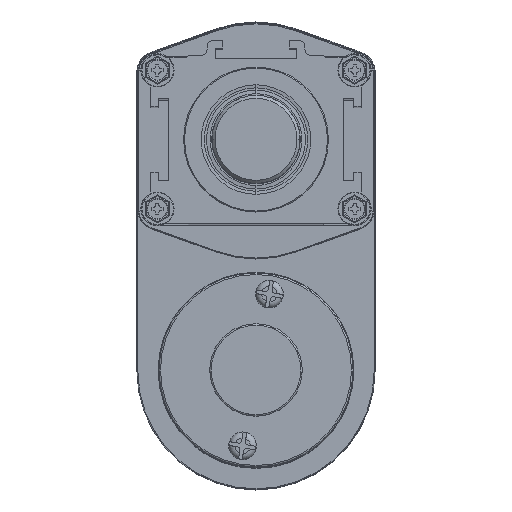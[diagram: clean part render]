
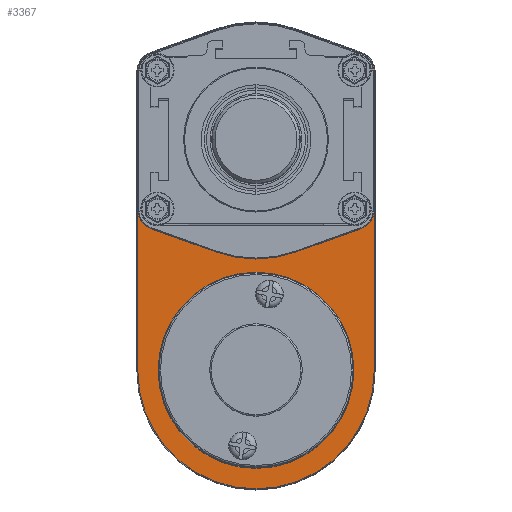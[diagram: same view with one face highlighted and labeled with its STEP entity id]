
A CAD part, top view. The second image highlights one B-rep face of the part: STEP entity #3367.
In plain terms, the highlighted planar face has unit normal (0, 0, 1).
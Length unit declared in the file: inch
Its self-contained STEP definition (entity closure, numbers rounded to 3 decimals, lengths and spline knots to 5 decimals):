
#3367=ADVANCED_FACE('NONE',(#8942,#8943,#8944),#8945,.T.);
#8942=FACE_OUTER_BOUND('',#17729,.T.);
#8943=FACE_BOUND('',#17730,.T.);
#8944=FACE_BOUND('',#17731,.T.);
#8945=PLANE('',#17732);
#17729=EDGE_LOOP('',(#33168,#33169,#33170,#33171,#33172,#33173,#33174,#33175));
#17730=EDGE_LOOP('',(#33176,#33177));
#17731=EDGE_LOOP('',(#33178,#33179,#33180,#33181,#33182,#33183,#33184,#33185,#33186,#33187,#33188,#33189,#33190));
#17732=AXIS2_PLACEMENT_3D('',#33191,#33192,#33193);
#33168=ORIENTED_EDGE('',*,*,#54996,.T.);
#33169=ORIENTED_EDGE('',*,*,#54997,.T.);
#33170=ORIENTED_EDGE('',*,*,#54998,.T.);
#33171=ORIENTED_EDGE('',*,*,#54999,.T.);
#33172=ORIENTED_EDGE('',*,*,#55000,.T.);
#33173=ORIENTED_EDGE('',*,*,#53604,.T.);
#33174=ORIENTED_EDGE('',*,*,#55001,.T.);
#33175=ORIENTED_EDGE('',*,*,#55002,.T.);
#33176=ORIENTED_EDGE('',*,*,#55003,.F.);
#33177=ORIENTED_EDGE('',*,*,#55004,.F.);
#33178=ORIENTED_EDGE('',*,*,#55005,.T.);
#33179=ORIENTED_EDGE('',*,*,#55006,.F.);
#33180=ORIENTED_EDGE('',*,*,#55007,.F.);
#33181=ORIENTED_EDGE('',*,*,#55008,.F.);
#33182=ORIENTED_EDGE('',*,*,#55009,.F.);
#33183=ORIENTED_EDGE('',*,*,#55010,.F.);
#33184=ORIENTED_EDGE('',*,*,#55011,.T.);
#33185=ORIENTED_EDGE('',*,*,#53167,.T.);
#33186=ORIENTED_EDGE('',*,*,#55012,.T.);
#33187=ORIENTED_EDGE('',*,*,#55013,.T.);
#33188=ORIENTED_EDGE('',*,*,#55014,.T.);
#33189=ORIENTED_EDGE('',*,*,#55015,.T.);
#33190=ORIENTED_EDGE('',*,*,#55016,.T.);
#33191=CARTESIAN_POINT('',(-20.20692,10.28208,-13.12935));
#33192=DIRECTION('',(0.0,0.0,1.0));
#33193=DIRECTION('',(1.0,0.0,0.0));
#53167=EDGE_CURVE('NONE',#62508,#62509,#62510,.T.);
#53604=EDGE_CURVE('NONE',#63292,#63289,#63293,.T.);
#54996=EDGE_CURVE('NONE',#65702,#65703,#65704,.T.);
#54997=EDGE_CURVE('NONE',#65703,#65705,#65706,.T.);
#54998=EDGE_CURVE('NONE',#65705,#65707,#65708,.T.);
#54999=EDGE_CURVE('NONE',#65707,#65709,#65710,.T.);
#55000=EDGE_CURVE('NONE',#65709,#63292,#65711,.T.);
#55001=EDGE_CURVE('NONE',#63289,#65712,#65713,.T.);
#55002=EDGE_CURVE('NONE',#65712,#65702,#65714,.T.);
#55003=EDGE_CURVE('NONE',#65715,#65716,#65717,.T.);
#55004=EDGE_CURVE('NONE',#65716,#65715,#65718,.T.);
#55005=EDGE_CURVE('NONE',#65719,#65720,#65721,.T.);
#55006=EDGE_CURVE('NONE',#65722,#65720,#65723,.T.);
#55007=EDGE_CURVE('NONE',#65724,#65722,#65725,.T.);
#55008=EDGE_CURVE('NONE',#65726,#65724,#65727,.T.);
#55009=EDGE_CURVE('NONE',#65728,#65726,#65729,.T.);
#55010=EDGE_CURVE('NONE',#65730,#65728,#65731,.T.);
#55011=EDGE_CURVE('NONE',#65730,#62508,#65732,.T.);
#55012=EDGE_CURVE('NONE',#62509,#65733,#65734,.T.);
#55013=EDGE_CURVE('NONE',#65733,#65735,#65736,.T.);
#55014=EDGE_CURVE('NONE',#65735,#65737,#65738,.T.);
#55015=EDGE_CURVE('NONE',#65737,#65739,#65740,.T.);
#55016=EDGE_CURVE('NONE',#65739,#65719,#65741,.T.);
#62508=VERTEX_POINT('NONE',#76111);
#62509=VERTEX_POINT('NONE',#76112);
#62510=CIRCLE('',#76113,0.24785);
#63289=VERTEX_POINT('NONE',#77629);
#63292=VERTEX_POINT('NONE',#77633);
#63293=LINE('',#77634,#77635);
#65702=VERTEX_POINT('NONE',#82963);
#65703=VERTEX_POINT('NONE',#82964);
#65704=CIRCLE('',#82965,0.25102);
#65705=VERTEX_POINT('NONE',#82966);
#65706=LINE('',#82967,#82968);
#65707=VERTEX_POINT('NONE',#82969);
#65708=CIRCLE('',#82970,1.51086);
#65709=VERTEX_POINT('NONE',#82971);
#65710=LINE('',#82972,#82973);
#65711=CIRCLE('',#82974,0.25102);
#65712=VERTEX_POINT('NONE',#82975);
#65713=CIRCLE('',#82976,1.51086);
#65714=LINE('',#82977,#82978);
#65715=VERTEX_POINT('NONE',#82979);
#65716=VERTEX_POINT('NONE',#82980);
#65717=CIRCLE('',#82981,1.25);
#65718=CIRCLE('',#82982,1.25);
#65719=VERTEX_POINT('NONE',#82983);
#65720=VERTEX_POINT('NONE',#82984);
#65721=LINE('',#82985,#82986);
#65722=VERTEX_POINT('NONE',#82987);
#65723=CIRCLE('',#82988,0.24785);
#65724=VERTEX_POINT('NONE',#82989);
#65725=LINE('',#82990,#82991);
#65726=VERTEX_POINT('NONE',#82992);
#65727=CIRCLE('',#82993,1.50769);
#65728=VERTEX_POINT('NONE',#82994);
#65729=LINE('',#82995,#82996);
#65730=VERTEX_POINT('NONE',#82997);
#65731=CIRCLE('',#82998,0.24785);
#65732=LINE('',#82999,#83000);
#65733=VERTEX_POINT('NONE',#83001);
#65734=LINE('',#83002,#83003);
#65735=VERTEX_POINT('NONE',#83004);
#65736=CIRCLE('',#83005,1.50769);
#65737=VERTEX_POINT('NONE',#83006);
#65738=CIRCLE('',#83007,1.50769);
#65739=VERTEX_POINT('NONE',#83008);
#65740=LINE('',#83009,#83010);
#65741=CIRCLE('',#83011,0.24785);
#76111=CARTESIAN_POINT('',(-21.98994,12.63444,-13.12935));
#76112=CARTESIAN_POINT('',(-21.82595,12.86767,-13.12935));
#76113=AXIS2_PLACEMENT_3D('',#105246,#105247,#105248);
#77629=CARTESIAN_POINT('',(-21.99311,8.81554,-13.12935));
#77633=CARTESIAN_POINT('',(-21.99311,12.63444,-13.12935));
#77634=CARTESIAN_POINT('',(-21.99311,8.81554,-13.12935));
#77635=VECTOR('',#105752,39.37008);
#82963=CARTESIAN_POINT('',(-18.97138,12.63444,-13.12935));
#82964=CARTESIAN_POINT('',(-19.13747,12.87066,-13.12935));
#82965=AXIS2_PLACEMENT_3D('',#107231,#107232,#107233);
#82966=CARTESIAN_POINT('',(-19.97106,13.17037,-13.12935));
#82967=CARTESIAN_POINT('',(-19.97106,13.17037,-13.12935));
#82968=VECTOR('',#107234,39.37008);
#82969=CARTESIAN_POINT('',(-20.99344,13.17037,-13.12935));
#82970=AXIS2_PLACEMENT_3D('',#107235,#107236,#107237);
#82971=CARTESIAN_POINT('',(-21.82702,12.87066,-13.12935));
#82972=CARTESIAN_POINT('',(-21.82702,12.87066,-13.12935));
#82973=VECTOR('',#107238,39.37008);
#82974=AXIS2_PLACEMENT_3D('',#107239,#107240,#107241);
#82975=CARTESIAN_POINT('',(-18.97138,8.81554,-13.12935));
#82976=AXIS2_PLACEMENT_3D('',#107242,#107243,#107244);
#82977=CARTESIAN_POINT('',(-18.97138,12.63444,-13.12935));
#82978=VECTOR('',#107245,39.37008);
#82979=CARTESIAN_POINT('',(-20.69931,7.58454,-13.12935));
#82980=CARTESIAN_POINT('',(-20.26519,10.04655,-13.12935));
#82981=AXIS2_PLACEMENT_3D('',#107246,#107247,#107248);
#82982=AXIS2_PLACEMENT_3D('',#107249,#107250,#107251);
#82983=CARTESIAN_POINT('',(-18.97456,12.63444,-13.12935));
#82984=CARTESIAN_POINT('',(-18.97456,10.86279,-13.12935));
#82985=CARTESIAN_POINT('',(-18.97456,12.63444,-13.12935));
#82986=VECTOR('',#107252,39.37008);
#82987=CARTESIAN_POINT('',(-19.13855,10.62956,-13.12935));
#82988=AXIS2_PLACEMENT_3D('',#107253,#107254,#107255);
#82989=CARTESIAN_POINT('',(-19.97213,10.32985,-13.12935));
#82990=CARTESIAN_POINT('',(-20.19525,10.24962,-13.12935));
#82991=VECTOR('',#107256,39.37008);
#82992=CARTESIAN_POINT('',(-20.99236,10.32985,-13.12935));
#82993=AXIS2_PLACEMENT_3D('',#107257,#107258,#107259);
#82994=CARTESIAN_POINT('',(-21.82595,10.62956,-13.12935));
#82995=CARTESIAN_POINT('',(-20.28163,10.0743,-13.12935));
#82996=VECTOR('',#107260,39.37008);
#82997=CARTESIAN_POINT('',(-21.98994,10.86279,-13.12935));
#82998=AXIS2_PLACEMENT_3D('',#107261,#107262,#107263);
#82999=CARTESIAN_POINT('',(-21.98994,10.86279,-13.12935));
#83000=VECTOR('',#107264,39.37008);
#83001=CARTESIAN_POINT('',(-20.99236,13.16739,-13.12935));
#83002=CARTESIAN_POINT('',(-21.82595,12.86767,-13.12935));
#83003=VECTOR('',#107265,39.37008);
#83004=CARTESIAN_POINT('',(-20.48225,13.2563,-13.12935));
#83005=AXIS2_PLACEMENT_3D('',#107266,#107267,#107268);
#83006=CARTESIAN_POINT('',(-19.97213,13.16739,-13.12935));
#83007=AXIS2_PLACEMENT_3D('',#107269,#107270,#107271);
#83008=CARTESIAN_POINT('',(-19.13855,12.86767,-13.12935));
#83009=CARTESIAN_POINT('',(-19.97213,13.16739,-13.12935));
#83010=VECTOR('',#107272,39.37008);
#83011=AXIS2_PLACEMENT_3D('',#107273,#107274,#107275);
#105246=CARTESIAN_POINT('',(-21.74209,12.63444,-13.12935));
#105247=DIRECTION('',(0.0,0.0,-1.0));
#105248=DIRECTION('',(1.0,0.,0.0));
#105752=DIRECTION('',(0.0,-1.0,0.0));
#107231=CARTESIAN_POINT('',(-19.22241,12.63444,-13.12935));
#107232=DIRECTION('',(0.0,0.0,1.0));
#107233=DIRECTION('',(1.0,0.0,0.0));
#107234=DIRECTION('',(-0.941,0.338,0.0));
#107235=CARTESIAN_POINT('',(-20.48225,11.74862,-13.12935));
#107236=DIRECTION('',(0.0,0.0,1.0));
#107237=DIRECTION('',(1.0,0.0,0.0));
#107238=DIRECTION('',(-0.941,-0.338,0.0));
#107239=CARTESIAN_POINT('',(-21.74209,12.63444,-13.12935));
#107240=DIRECTION('',(0.0,0.0,1.0));
#107241=DIRECTION('',(1.0,0.0,0.0));
#107242=CARTESIAN_POINT('',(-20.48225,8.81554,-13.12935));
#107243=DIRECTION('',(0.0,0.0,1.0));
#107244=DIRECTION('',(1.0,0.0,0.0));
#107245=DIRECTION('',(0.0,1.0,0.0));
#107246=CARTESIAN_POINT('',(-20.48225,8.81554,-13.12935));
#107247=DIRECTION('',(0.0,0.0,1.0));
#107248=DIRECTION('',(1.0,0.0,0.0));
#107249=CARTESIAN_POINT('',(-20.48225,8.81554,-13.12935));
#107250=DIRECTION('',(0.0,0.0,1.0));
#107251=DIRECTION('',(1.0,0.0,0.0));
#107252=DIRECTION('',(0.,-1.0,0.0));
#107253=CARTESIAN_POINT('',(-19.22241,10.86279,-13.12935));
#107254=DIRECTION('',(0.0,0.0,1.0));
#107255=DIRECTION('',(1.0,0.0,0.0));
#107256=DIRECTION('',(0.941,0.338,0.0));
#107257=CARTESIAN_POINT('',(-20.48225,11.74862,-13.12935));
#107258=DIRECTION('',(0.0,0.0,1.0));
#107259=DIRECTION('',(1.0,0.0,0.0));
#107260=DIRECTION('',(0.941,-0.338,0.0));
#107261=CARTESIAN_POINT('',(-21.74209,10.86279,-13.12935));
#107262=DIRECTION('',(0.0,0.0,1.0));
#107263=DIRECTION('',(1.0,0.0,0.0));
#107264=DIRECTION('',(0.,1.0,0.0));
#107265=DIRECTION('',(0.941,0.338,0.0));
#107266=CARTESIAN_POINT('',(-20.48225,11.74862,-13.12935));
#107267=DIRECTION('',(0.0,0.0,-1.0));
#107268=DIRECTION('',(1.0,0.,0.0));
#107269=CARTESIAN_POINT('',(-20.48225,11.74862,-13.12935));
#107270=DIRECTION('',(0.0,0.0,-1.0));
#107271=DIRECTION('',(1.0,0.,0.0));
#107272=DIRECTION('',(0.941,-0.338,0.0));
#107273=CARTESIAN_POINT('',(-19.22241,12.63444,-13.12935));
#107274=DIRECTION('',(0.0,0.0,-1.0));
#107275=DIRECTION('',(1.0,0.,0.0));
